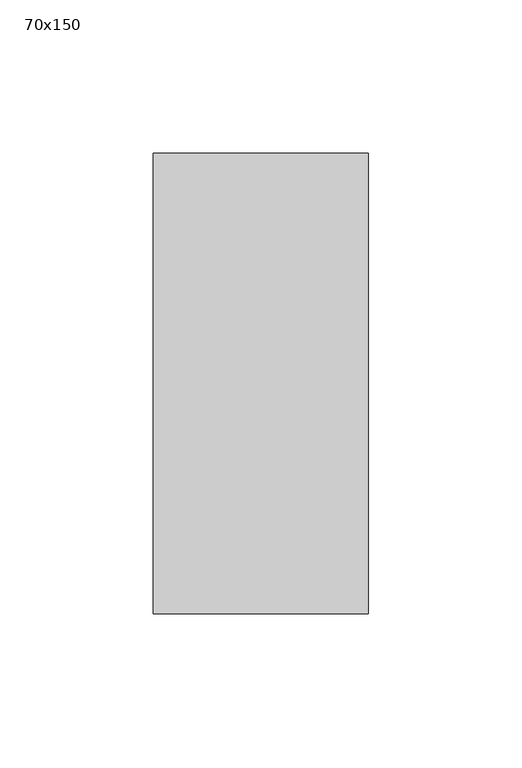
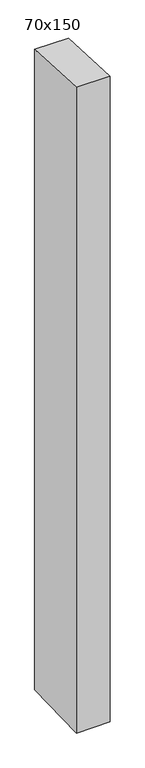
"""IFC4 building model written with IfcOpenShell, lengths in millimetres: member geometry, 長方形のマリオン : 70x150."""

from ifc_helpers import new_model, si_unit, frame, origin, place, context, project, spatial, polyline, outline, extrude, source, transform, mapped, element, save


def member_70x150_71c02b73(model_context):
    return source(origin(), model_context, "Body", "SweptSolid", [
        extrude(outline(polyline([(-75.0, 3.7398753), (75.0, -3.7398753), (75.0, -1412.7445087), (-75.0, -1417.2882072), (-75.0, 3.7398753)])), frame((-70.0, 0.0, 0.0), z_axis=(1.0, 0.0, 0.0), x_axis=(0.0, 1.0, 0.0)), (0.0, 0.0, 1.0), 70.0),
    ])


if __name__ == "__main__":
    model = new_model("IFC4")
    model_context = context("Model", 3, world=origin())
    ifc_project = project(units=[si_unit("LENGTHUNIT", "METRE", prefix="MILLI")], contexts=[model_context])
    site = spatial("IfcSite", under=ifc_project)
    building = spatial("IfcBuilding", under=site)
    placement = place(None, origin())
    member_70x150_shape = member_70x150_71c02b73(model_context)
    element("IfcMember", 1, ObjectType="長方形のマリオン : 70x150", at=placement, inside=building, context=model_context, shape_type="MappedRepresentation", body=[
        mapped(member_70x150_shape, transform((0.0, 0.0, 0.0), x_axis=(1.0, 0.0, 0.0), y_axis=(0.0, 1.0, 0.0), z_axis=(0.0, 0.0, 1.0))),
    ])
    save(model, "model.ifc")
